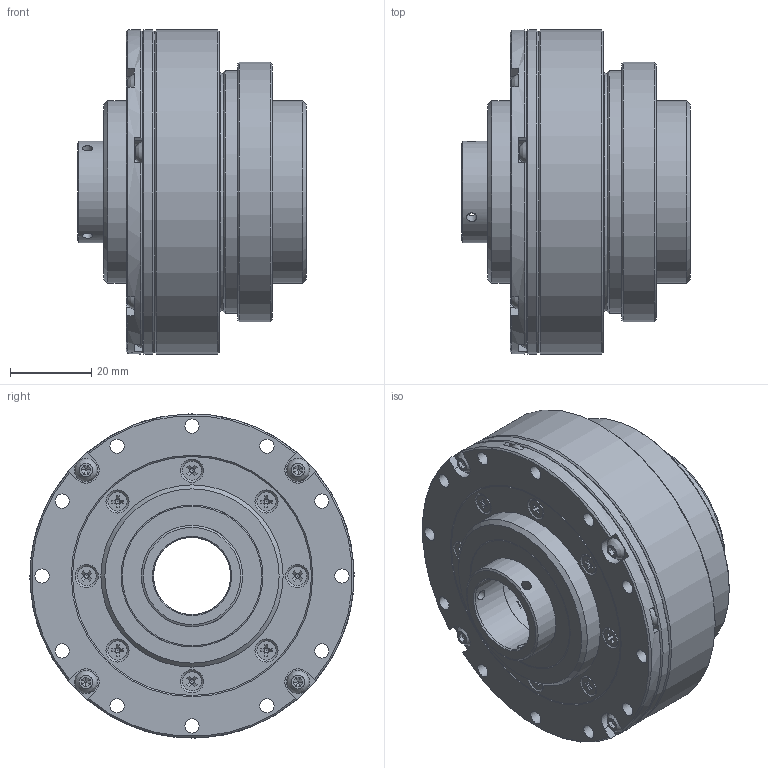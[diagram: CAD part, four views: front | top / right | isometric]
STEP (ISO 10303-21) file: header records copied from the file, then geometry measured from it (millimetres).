
FILE_DESCRIPTION (( 'STEP AP203' ), '1' );
FILE_NAME ('LHS-17-XXX-C-III.STEP', '2025-01-07T05:59:06', ( '' ), ( '' ), 'SwSTEP 2.0', 'SolidWorks 2023', '' );
FILE_SCHEMA (( 'CONFIG_CONTROL_DESIGN' ));
Length unit declared in the file: metre
Products named in the file (1): LHS-17-XXX-C-III
Bounding box: 56.5 x 80 x 80 mm (x, y, z)
Volume: 125713.1 mm3; surface area: 112828 mm2
Topology: 62 solids, 62 shells, 1315 faces, 3473 edges, 2195 vertices
Faces by surface type: plane 541, cylinder 322, bspline 268, cone 184
Full cylindrical faces by diameter (mm): 2 x1, 2.05 x8, 2.5 x39, 3 x20, 3.5 x72, 3.7 x16, 3.8 x1, 4.7 x8, 5.5 x4, 6 x4, 19 x2, 19.5 x1, 23.9 x1, 24 x1, 24.5 x2, 25 x7, 27 x1, 28 x1, 29 x6, 29.4 x1, 30 x2, 30.295 x1, 32.5 x1, 32.53 x2, 32.6 x2, 33 x4, 33.23 x1, 34 x1, 34.8 x1, 35 x4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
Entity records: 47529 total; most frequent: CARTESIAN_POINT 19396, ORIENTED_EDGE 5492, DIRECTION 5384, EDGE_CURVE 2746, AXIS2_PLACEMENT_3D 2308, EDGE_LOOP 2114, VERTEX_POINT 1980, FACE_OUTER_BOUND 1673
